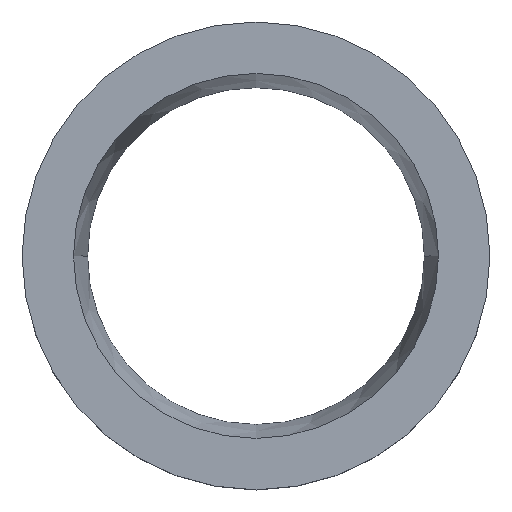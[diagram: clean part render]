
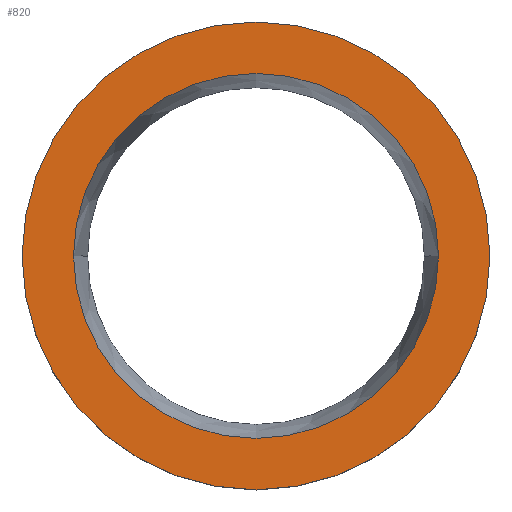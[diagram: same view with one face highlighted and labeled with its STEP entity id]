
A CAD part, top view. The second image highlights one B-rep face of the part: STEP entity #820.
In plain terms, the highlighted planar face has unit normal (0, 0, 1).
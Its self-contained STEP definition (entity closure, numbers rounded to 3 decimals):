
#125=CARTESIAN_POINT('',(0.,0.,22.));
#126=DIRECTION('',(0.,0.,1.));
#127=DIRECTION('',(1.,0.,0.));
#128=AXIS2_PLACEMENT_3D('',#125,#126,#127);
#130=CARTESIAN_POINT('',(0.,0.,22.));
#131=DIRECTION('',(0.,0.,1.));
#132=DIRECTION('',(-1.,0.,0.));
#133=AXIS2_PLACEMENT_3D('',#130,#131,#132);
#135=CARTESIAN_POINT('',(0.,0.,22.));
#136=DIRECTION('',(0.,0.,-1.));
#137=DIRECTION('',(1.,0.,0.));
#138=AXIS2_PLACEMENT_3D('',#135,#136,#137);
#140=CARTESIAN_POINT('',(0.,0.,
22.));
#141=DIRECTION('',(0.,0.,-1.));
#142=DIRECTION('',(-1.,0.,0.));
#143=AXIS2_PLACEMENT_3D('',#140,#141,#142);
#515=CARTESIAN_POINT('',(50.,0.,22.));
#516=CARTESIAN_POINT('',(-50.,0.,22.));
#517=VERTEX_POINT('',#515);
#518=VERTEX_POINT('',#516);
#519=CARTESIAN_POINT('',(39.,0.,22.));
#520=CARTESIAN_POINT('',(-39.,0.,22.));
#521=VERTEX_POINT('',#519);
#522=VERTEX_POINT('',#520);
#805=CARTESIAN_POINT('',(0.,0.,22.));
#806=DIRECTION('',(0.,0.,1.));
#807=DIRECTION('',(1.,0.,0.));
#808=AXIS2_PLACEMENT_3D('',#805,#806,#807);
#809=PLANE('',#808);
#811=ORIENTED_EDGE('',*,*,#810,.F.);
#813=ORIENTED_EDGE('',*,*,#812,.F.);
#814=EDGE_LOOP('',(#811,#813));
#815=FACE_OUTER_BOUND('',#814,.F.);
#816=ORIENTED_EDGE('',*,*,#785,.F.);
#817=ORIENTED_EDGE('',*,*,#799,.F.);
#818=EDGE_LOOP('',(#816,#817));
#819=FACE_BOUND('',#818,.F.);
#129=CIRCLE('',#128,50.);
#134=CIRCLE('',#133,50.);
#139=CIRCLE('',#138,39.);
#144=CIRCLE('',#143,39.);
#785=EDGE_CURVE('',#521,#522,#139,.T.);
#799=EDGE_CURVE('',#522,#521,#144,.T.);
#810=EDGE_CURVE('',#517,#518,#129,.T.);
#812=EDGE_CURVE('',#518,#517,#134,.T.);
#820=ADVANCED_FACE('',(#815,#819),#809,.T.);
